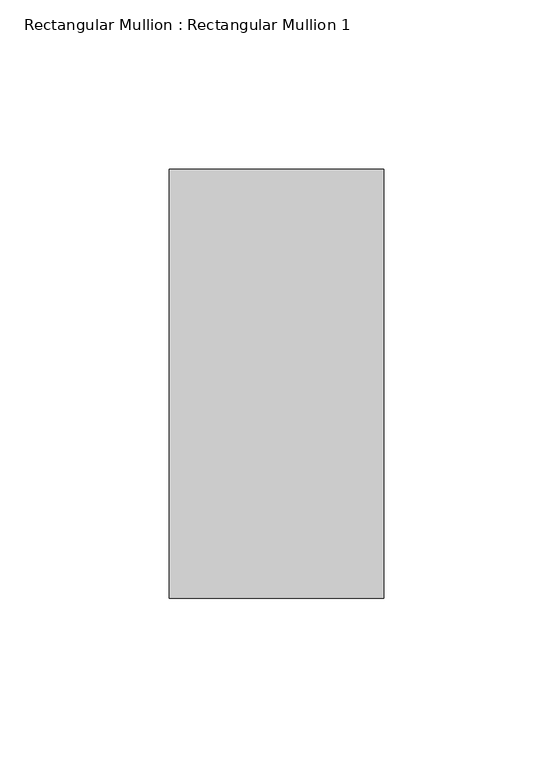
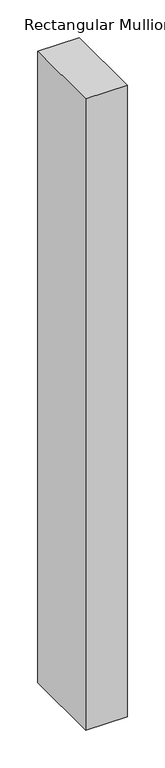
"""IFC4 building model written with IfcOpenShell, lengths in millimetres: member geometry, Rectangular Mullion : Rectangular Mullion 1."""

import ifcopenshell
import ifcopenshell.guid

model = None  # the IFC model being written
_history = None  # IfcOwnerHistory: only IFC2X3 demands one
_inside = {}  # id of a spatial element -> (the spatial element, [elements in it])
_under = {}  # id of a project, library or spatial element -> (it, [spatial elements below it])
_declared = {}  # id of a project -> (the project, [libraries it declares])
_typed = {}  # id of a type object -> (the type object, [elements of that type])
_made_of = {}  # id of a material, layer set ... -> (it, [elements and type objects made of it])


def new_model(schema):
    """Start an empty IFC model of exactly this schema.

    Asked for "IFC4X3", IfcOpenShell would pick the latest addendum, in which some entities
    have other attributes; the version numbers below select the first issue.
    IFC2X3 requires an IfcOwnerHistory on every rooted entity: one is made here for all.
    """
    global model, _history
    if schema == "IFC4X3":
        model = ifcopenshell.file(schema_version=(4, 3, 0, 0))
    else:
        model = ifcopenshell.file(schema=schema)
    _inside.clear()
    _under.clear()
    _declared.clear()
    _typed.clear()
    _made_of.clear()
    _history = None
    if model.schema == "IFC2X3":
        org = make("IfcOrganization", Name="unknown")
        user = make(
            "IfcPersonAndOrganization",
            ThePerson=make("IfcPerson", FamilyName="unknown"),
            TheOrganization=org,
        )
        app = make(
            "IfcApplication",
            ApplicationDeveloper=org,
            Version="unknown",
            ApplicationFullName="unknown",
            ApplicationIdentifier="unknown",
        )
        _history = make(
            "IfcOwnerHistory",
            OwningUser=user,
            OwningApplication=app,
            ChangeAction="ADDED",
            CreationDate=0,
        )
    return model


def make(cls, **values):
    """One entity of the class cls with the attributes given. An attribute that is None is left unset."""
    return model.create_entity(
        cls, **{name: value for name, value in values.items() if value is not None}
    )


def rooted(cls, **values):
    """An entity with a GlobalId (a new one), such as an element, a storey or a relation."""
    return make(cls, GlobalId=ifcopenshell.guid.new(), OwnerHistory=_history, **values)


def si_unit(unit_type, name, prefix=None):
    """IfcSIUnit, for example si_unit("LENGTHUNIT", "METRE", prefix="MILLI")."""
    return make("IfcSIUnit", UnitType=unit_type, Prefix=prefix, Name=name)


def assignment(units):
    """IfcUnitAssignment: the units of a project."""
    return None if units is None else make("IfcUnitAssignment", Units=units)


def point(xyz):
    """IfcCartesianPoint."""
    return None if xyz is None else make("IfcCartesianPoint", Coordinates=xyz)


def direction(xyz):
    """IfcDirection."""
    return None if xyz is None else make("IfcDirection", DirectionRatios=xyz)


def frame(location, z_axis=None, x_axis=None):
    """IfcAxis2Placement3D, a coordinate frame: its origin and axes. An axis left out is left unset."""
    return make(
        "IfcAxis2Placement3D",
        Location=point(location),
        Axis=direction(z_axis),
        RefDirection=direction(x_axis),
    )


def origin():
    """The frame at (0, 0, 0) with its axes left unset."""
    return frame((0.0, 0.0, 0.0))


def place(relative_to, where):
    """IfcLocalPlacement: puts the frame where relative to a parent placement (None: the world)."""
    return make(
        "IfcLocalPlacement", PlacementRelTo=relative_to, RelativePlacement=where
    )


def context(
    kind, dimensions, precision=None, world=None, true_north=None, identifier=None
):
    """IfcGeometricRepresentationContext, for example the 3D "Model" context."""
    return make(
        "IfcGeometricRepresentationContext",
        ContextIdentifier=identifier,
        ContextType=kind,
        CoordinateSpaceDimension=dimensions,
        Precision=precision,
        WorldCoordinateSystem=world,
        TrueNorth=true_north,
    )


def project(units=None, contexts=None):
    """IfcProject with its units and contexts."""
    return rooted(
        "IfcProject",
        Name="project",
        RepresentationContexts=contexts,
        UnitsInContext=assignment(units),
    )


def spatial(cls, under=None, at=None, **own):
    """A site, building, storey or space (cls), placed at a placement, below another one or the project."""
    s = rooted(cls, ObjectPlacement=at, **own)
    if under is not None:
        _under.setdefault(under.id(), (under, []))[1].append(s)
    return s


def polyline(points):
    """IfcPolyline through the points."""
    return make("IfcPolyline", Points=[point(p) for p in points])


def outline(outer, holes=None, kind="AREA"):
    """IfcArbitraryClosedProfileDef: a profile drawn as a closed curve; with holes, ...WithVoids."""
    if holes is None:
        return make("IfcArbitraryClosedProfileDef", ProfileType=kind, OuterCurve=outer)
    return make(
        "IfcArbitraryProfileDefWithVoids",
        ProfileType=kind,
        OuterCurve=outer,
        InnerCurves=holes,
    )


def extrude(swept, where, along, depth):
    """IfcExtrudedAreaSolid: the profile swept, set in the frame where, extruded along a direction by depth."""
    return make(
        "IfcExtrudedAreaSolid",
        SweptArea=swept,
        Position=where,
        ExtrudedDirection=direction(along),
        Depth=depth,
    )


def shape(context_of_items, identifier, shape_type, items):
    """IfcShapeRepresentation: the items that make up one representation, for example the "Body"."""
    return make(
        "IfcShapeRepresentation",
        ContextOfItems=context_of_items,
        RepresentationIdentifier=identifier,
        RepresentationType=shape_type,
        Items=items,
    )


def source(mapping_origin, context_of_items, identifier, shape_type, items):
    """IfcRepresentationMap: a shape defined once, which mapped items show again and again."""
    return make(
        "IfcRepresentationMap",
        MappingOrigin=mapping_origin,
        MappedRepresentation=shape(context_of_items, identifier, shape_type, items),
    )


def transform(
    local_origin,
    x_axis=None,
    y_axis=None,
    z_axis=None,
    scale=None,
    scale2=None,
    scale3=None,
    uniform=True,
):
    """IfcCartesianTransformationOperator3D, or its non-uniform kind. x_axis, y_axis, z_axis: its Axis1, 2, 3."""
    if uniform:
        return make(
            "IfcCartesianTransformationOperator3D",
            Axis1=direction(x_axis),
            Axis2=direction(y_axis),
            LocalOrigin=point(local_origin),
            Scale=scale,
            Axis3=direction(z_axis),
        )
    return make(
        "IfcCartesianTransformationOperator3DnonUniform",
        Axis1=direction(x_axis),
        Axis2=direction(y_axis),
        LocalOrigin=point(local_origin),
        Scale=scale,
        Axis3=direction(z_axis),
        Scale2=scale2,
        Scale3=scale3,
    )


def mapped(mapping_source, mapping_target):
    """IfcMappedItem: shows the shape of a source again, moved by a transform."""
    return make(
        "IfcMappedItem", MappingSource=mapping_source, MappingTarget=mapping_target
    )


def made_of(thing, what):
    """Note that an element or type object is made of a material, layer set ...; save() writes the relation."""
    if what is not None:
        _made_of.setdefault(what.id(), (what, []))[1].append(thing)
    return thing


def element(
    cls,
    number,
    at=None,
    inside=None,
    cuts=None,
    type_object=None,
    material=None,
    context=None,
    identifier="Body",
    shape_type=None,
    held_by="IfcProductDefinitionShape",
    body=None,
    shapes=None,
    **own,
):
    """One element of the class cls, such as IfcWall. Its Tag is "e" and its number.

    at: its placement. inside: the storey or other place that contains it. cuts: it is an
    opening in that element (IfcRelVoidsElement). A single representation is given by context,
    identifier, shape_type and body (its items); several are given by shapes. held_by: the class
    of the entity that holds the representations. save() writes the other relations.
    """
    e = rooted(cls, Tag="e%d" % number, ObjectPlacement=at, **own)
    if body is not None:
        shapes = [shape(context, identifier, shape_type, body)]
    if shapes is not None:
        e.Representation = make(held_by, Representations=shapes)
    if inside is not None:
        _inside.setdefault(inside.id(), (inside, []))[1].append(e)
    if cuts is not None:
        rooted(
            "IfcRelVoidsElement", RelatingBuildingElement=cuts, RelatedOpeningElement=e
        )
    if type_object is not None:
        _typed.setdefault(type_object.id(), (type_object, []))[1].append(e)
    return made_of(e, material)


def aggregate(whole, parts):
    """IfcRelAggregates: a whole, such as a stair, and the parts it consists of."""
    return rooted("IfcRelAggregates", RelatingObject=whole, RelatedObjects=parts)


def save(model, path):
    """Write the relations noted so far, then the file.

    IfcRelAggregates (storeys below a building ...), IfcRelContainedInSpatialStructure (elements
    in a storey), IfcRelDefinesByType, IfcRelAssociatesMaterial and IfcRelDeclares: one each for
    every whole, place, type object, material and project.
    """
    for whole, parts in _under.values():
        aggregate(whole, parts)
    for where, things in _inside.values():
        rooted(
            "IfcRelContainedInSpatialStructure",
            RelatedElements=things,
            RelatingStructure=where,
        )
    for kind, things in _typed.values():
        rooted("IfcRelDefinesByType", RelatedObjects=things, RelatingType=kind)
    for what, things in _made_of.values():
        rooted("IfcRelAssociatesMaterial", RelatedObjects=things, RelatingMaterial=what)
    for by, libraries in _declared.values():
        rooted("IfcRelDeclares", RelatingContext=by, RelatedDefinitions=libraries)
    model.write(path)


def rectangular_mullion_rectangular_mullion_1_daa2411d(model_context):
    return source(origin(), model_context, "Body", "SweptSolid", [
        extrude(outline(polyline([(31.75, 63.5), (31.75, -63.5), (-31.75, -63.5), (-31.75, 63.5), (31.75, 63.5)])), frame((0.0, 0.0, -1022.3449385), z_axis=(0.0, 0.0, 1.0), x_axis=(1.0, 0.0, 0.0)), (0.0, 0.0, 1.0), 1022.3449385),
    ])


if __name__ == "__main__":
    model = new_model("IFC4")
    model_context = context("Model", 3, world=origin())
    ifc_project = project(units=[si_unit("LENGTHUNIT", "METRE", prefix="MILLI")], contexts=[model_context])
    site = spatial("IfcSite", under=ifc_project)
    building = spatial("IfcBuilding", under=site)
    placement = place(None, origin())
    rectangular_mullion_rectangular_mullion_1_shape = rectangular_mullion_rectangular_mullion_1_daa2411d(model_context)
    element("IfcMember", 1, ObjectType="Rectangular Mullion : Rectangular Mullion 1", at=placement, inside=building, context=model_context, shape_type="MappedRepresentation", body=[
        mapped(rectangular_mullion_rectangular_mullion_1_shape, transform((0.0, 0.0, 0.0), x_axis=(1.0, 0.0, 0.0), y_axis=(0.0, 1.0, 0.0), z_axis=(0.0, 0.0, 1.0))),
    ])
    save(model, "model.ifc")
